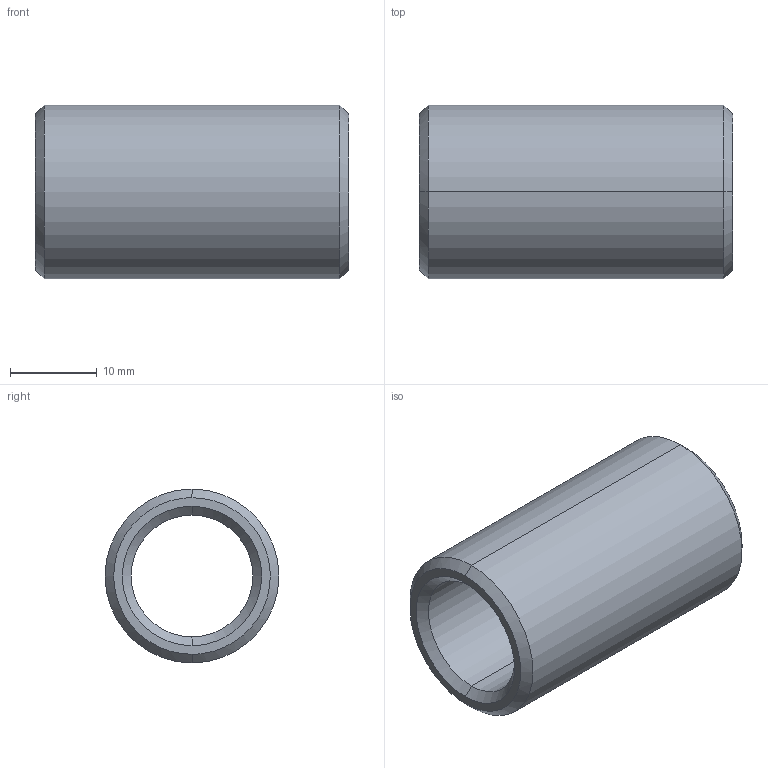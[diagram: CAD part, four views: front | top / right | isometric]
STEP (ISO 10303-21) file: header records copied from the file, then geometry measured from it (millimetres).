
FILE_DESCRIPTION(('CATIA V5 STEP Exchange'),'2;1');
FILE_NAME('C:\Users\Utente\Desktop\IO LAVORO\3D X SITO CF\X SITO\PLASTICA\352\352-14X36.stp','2021-04-10T09:15:11+00:00',('none'),('none'),'CATIA Version 5 Release 20 GA (IN-10)','CATIA V5 STEP AP203','none');
FILE_SCHEMA(('CONFIG_CONTROL_DESIGN'));
Length unit declared in the file: millimetre
Products named in the file (1): 352-14X36
Bounding box: 36 x 20 x 20 mm (x, y, z)
Volume: 5674.4 mm3; surface area: 4046.6 mm2
Topology: 1 solids, 1 shells, 14 faces, 44 edges, 32 vertices
Faces by surface type: cone 6, cylinder 4, plane 2, torus 2
Entity records: 634 total; most frequent: CARTESIAN_POINT 203, ORIENTED_EDGE 88, DIRECTION 64, EDGE_CURVE 44, AXIS2_PLACEMENT_3D 41, VERTEX_POINT 32, CIRCLE 26, EDGE_LOOP 16
